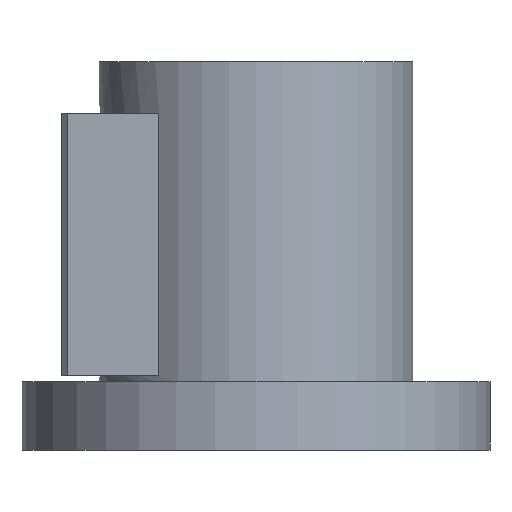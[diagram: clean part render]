
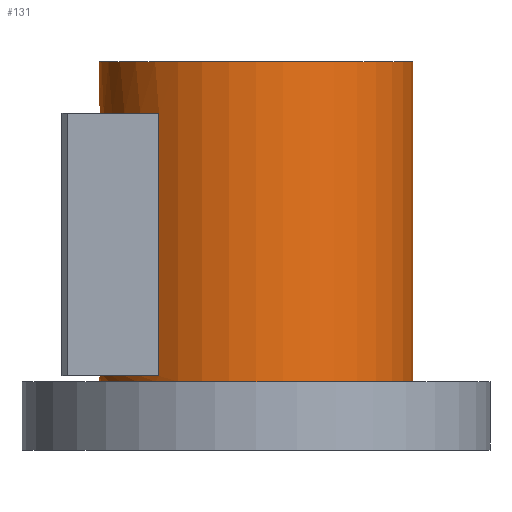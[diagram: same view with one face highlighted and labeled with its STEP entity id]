
A CAD part, front view. The second image highlights one B-rep face of the part: STEP entity #131.
In plain terms, the highlighted cylindrical face has radius 27.5 mm (diameter 55 mm), a full revolution.
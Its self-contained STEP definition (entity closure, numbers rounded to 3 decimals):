
#131=ADVANCED_FACE('',(#218,#219,#220),#161,.T.);
#161=CYLINDRICAL_SURFACE('',#550,27.5);
#174=LINE('',#752,#196);
#175=LINE('',#756,#197);
#196=VECTOR('',#612,1.);
#197=VECTOR('',#615,1.);
#218=FACE_BOUND('',#263,.T.);
#219=FACE_BOUND('',#264,.T.);
#220=FACE_BOUND('',#265,.T.);
#263=EDGE_LOOP('',(#325));
#264=EDGE_LOOP('',(#326));
#265=EDGE_LOOP('',(#327,#328,#329,#330));
#325=ORIENTED_EDGE('',*,*,#467,.F.);
#326=ORIENTED_EDGE('',*,*,#468,.T.);
#327=ORIENTED_EDGE('',*,*,#469,.F.);
#328=ORIENTED_EDGE('',*,*,#470,.F.);
#329=ORIENTED_EDGE('',*,*,#471,.T.);
#330=ORIENTED_EDGE('',*,*,#472,.F.);
#425=VERTEX_POINT('',#746);
#426=VERTEX_POINT('',#748);
#427=VERTEX_POINT('',#750);
#428=VERTEX_POINT('',#751);
#429=VERTEX_POINT('',#753);
#430=VERTEX_POINT('',#755);
#467=EDGE_CURVE('',#425,#425,#517,.T.);
#468=EDGE_CURVE('',#426,#426,#518,.T.);
#469=EDGE_CURVE('',#427,#428,#519,.T.);
#470=EDGE_CURVE('',#429,#427,#174,.T.);
#471=EDGE_CURVE('',#429,#430,#520,.T.);
#472=EDGE_CURVE('',#428,#430,#175,.T.);
#517=CIRCLE('',#546,27.5);
#518=CIRCLE('',#547,27.5);
#519=CIRCLE('',#548,27.5);
#520=CIRCLE('',#549,27.5);
#546=AXIS2_PLACEMENT_3D('',#745,#606,#607);
#547=AXIS2_PLACEMENT_3D('',#747,#608,#609);
#548=AXIS2_PLACEMENT_3D('',#749,#610,#611);
#549=AXIS2_PLACEMENT_3D('',#754,#613,#614);
#550=AXIS2_PLACEMENT_3D('',#757,#616,#617);
#606=DIRECTION('',(0.,0.,1.));
#607=DIRECTION('',(1.,0.,0.));
#608=DIRECTION('',(0.,0.,1.));
#609=DIRECTION('',(1.,0.,0.));
#610=DIRECTION('',(0.,0.,-1.));
#611=DIRECTION('',(-1.,0.,0.));
#612=DIRECTION('',(0.,0.,1.));
#613=DIRECTION('',(0.,0.,-1.));
#614=DIRECTION('',(-1.,0.,0.));
#615=DIRECTION('',(0.,0.,-1.));
#616=DIRECTION('',(0.,0.,-1.));
#617=DIRECTION('',(-1.,0.,0.));
#745=CARTESIAN_POINT('',(0.,0.,68.));
#746=CARTESIAN_POINT('',(27.5,0.,68.));
#747=CARTESIAN_POINT('',(0.,0.,12.));
#748=CARTESIAN_POINT('',(27.5,0.,12.));
#749=CARTESIAN_POINT('',(0.,0.,59.));
#750=CARTESIAN_POINT('',(-17.,-21.616,59.));
#751=CARTESIAN_POINT('',(-17.,21.616,59.));
#752=CARTESIAN_POINT('',(-17.,-21.616,68.));
#753=CARTESIAN_POINT('',(-17.,-21.616,13.));
#754=CARTESIAN_POINT('',(0.,0.,13.));
#755=CARTESIAN_POINT('',(-17.,21.616,13.));
#756=CARTESIAN_POINT('',(-17.,21.616,68.));
#757=CARTESIAN_POINT('',(0.,0.,68.));
